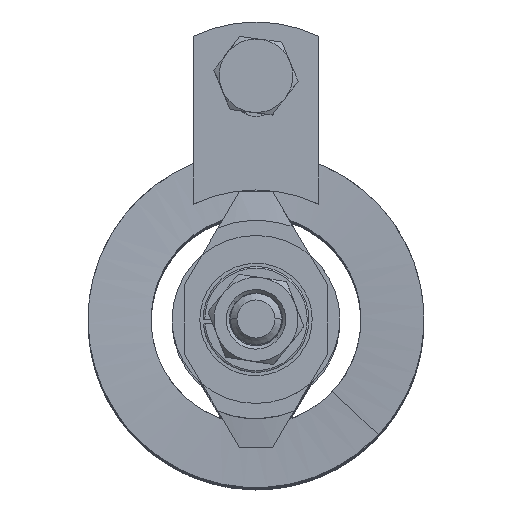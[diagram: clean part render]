
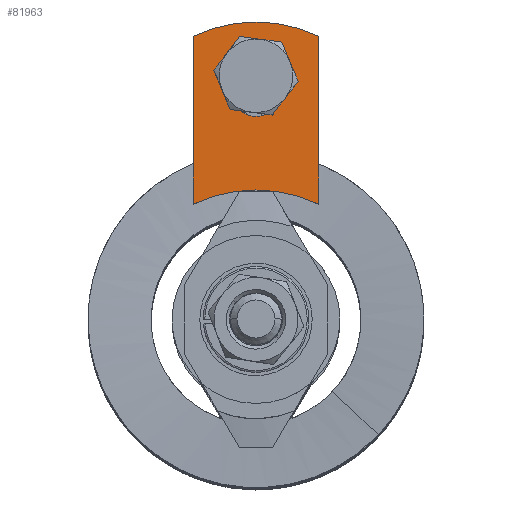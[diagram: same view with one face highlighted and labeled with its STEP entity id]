
A CAD part, top view. The second image highlights one B-rep face of the part: STEP entity #81963.
In plain terms, the highlighted planar face has unit normal (0, 0, 1).
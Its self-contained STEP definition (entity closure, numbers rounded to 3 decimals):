
#3057 = FACE_BOUND ( 'NONE', #114098, .T. ) ;
#3061 = FACE_OUTER_BOUND ( 'NONE', #5842, .T. ) ;
#5842 = EDGE_LOOP ( 'NONE', ( #39906, #39901, #39898, #39895, #39892, #39889 ) ) ;
#33125 = CARTESIAN_POINT ( 'NONE',  ( 8.136, 3.373, 0. ) ) ;
#33455 = CARTESIAN_POINT ( 'NONE',  ( 10.914, -3.373, 0. ) ) ;
#33978 = CARTESIAN_POINT ( 'NONE',  ( 10.914, 3.373, 0. ) ) ;
#39438 = VERTEX_POINT ( 'NONE', #33455 ) ;
#39889 = ORIENTED_EDGE ( 'NONE', *, *, #101750, .T. ) ;
#39892 = ORIENTED_EDGE ( 'NONE', *, *, #101670, .T. ) ;
#39895 = ORIENTED_EDGE ( 'NONE', *, *, #101749, .T. ) ;
#39898 = ORIENTED_EDGE ( 'NONE', *, *, #101748, .T. ) ;
#39901 = ORIENTED_EDGE ( 'NONE', *, *, #101662, .T. ) ;
#39906 = ORIENTED_EDGE ( 'NONE', *, *, #101747, .T. ) ;
#39909 = ORIENTED_EDGE ( 'NONE', *, *, #101746, .T. ) ;
#39912 = ORIENTED_EDGE ( 'NONE', *, *, #101745, .T. ) ;
#39915 = ORIENTED_EDGE ( 'NONE', *, *, #101744, .T. ) ;
#39918 = ORIENTED_EDGE ( 'NONE', *, *, #101666, .T. ) ;
#39921 = ORIENTED_EDGE ( 'NONE', *, *, #101743, .T. ) ;
#43383 = VERTEX_POINT ( 'NONE', #33125 ) ;
#43532 = VERTEX_POINT ( 'NONE', #33978 ) ;
#72497 = VERTEX_POINT ( 'NONE', #92924 ) ;
#72561 = VERTEX_POINT ( 'NONE', #93057 ) ;
#72661 = VERTEX_POINT ( 'NONE', #93203 ) ;
#72677 = VERTEX_POINT ( 'NONE', #92852 ) ;
#81963 = ADVANCED_FACE ( 'NONE', ( #3057, #3061 ), #92443, .T. ) ;
#89864 = CARTESIAN_POINT ( 'NONE',  ( -28.575, 0., 0. ) ) ;
#89865 = DIRECTION ( 'NONE',  ( 0., 0., -1. ) ) ;
#89867 = DIRECTION ( 'NONE',  ( 1., 0., 0. ) ) ;
#89883 = CARTESIAN_POINT ( 'NONE',  ( 10.914, 0., 0. ) ) ;
#89885 = DIRECTION ( 'NONE',  ( 0., 0., -1. ) ) ;
#89887 = DIRECTION ( 'NONE',  ( 1., 0., 0. ) ) ;
#89904 = CARTESIAN_POINT ( 'NONE',  ( -3.175, 0., 0. ) ) ;
#89906 = DIRECTION ( 'NONE',  ( 0., 0., 1. ) ) ;
#89908 = DIRECTION ( 'NONE',  ( 1., 0., 0. ) ) ;
#90375 = DIRECTION ( 'NONE',  ( 1., 0., 0. ) ) ;
#90380 = DIRECTION ( 'NONE',  ( -1., 0., 0. ) ) ;
#90381 = CARTESIAN_POINT ( 'NONE',  ( 0., -3.373, 0. ) ) ;
#90382 = CARTESIAN_POINT ( 'NONE',  ( 0., 3.373, 0. ) ) ;
#90386 = CARTESIAN_POINT ( 'NONE',  ( 19.05, 9.525, 0. ) ) ;
#90387 = DIRECTION ( 'NONE',  ( -1., 0., 0. ) ) ;
#90388 = CARTESIAN_POINT ( 'NONE',  ( 10.914, 0., 0. ) ) ;
#90389 = DIRECTION ( 'NONE',  ( 0., 0., -1. ) ) ;
#90390 = DIRECTION ( 'NONE',  ( 1., 0., 0. ) ) ;
#90391 = CARTESIAN_POINT ( 'NONE',  ( 19.05, -9.525, 0. ) ) ;
#90392 = DIRECTION ( 'NONE',  ( 1., 0., 0. ) ) ;
#90393 = CARTESIAN_POINT ( 'NONE',  ( 8.136, 0., 0. ) ) ;
#90394 = DIRECTION ( 'NONE',  ( 0., 0., -1. ) ) ;
#90395 = DIRECTION ( 'NONE',  ( 1., 0., 0. ) ) ;
#90398 = CARTESIAN_POINT ( 'NONE',  ( -28.575, 0., 0. ) ) ;
#90399 = DIRECTION ( 'NONE',  ( 0., 0., -1. ) ) ;
#90400 = DIRECTION ( 'NONE',  ( 1., 0., 0. ) ) ;
#90401 = CARTESIAN_POINT ( 'NONE',  ( -3.175, 0., 0. ) ) ;
#90402 = DIRECTION ( 'NONE',  ( 0., 0., 1. ) ) ;
#90403 = DIRECTION ( 'NONE',  ( 1., 0., 0. ) ) ;
#92413 = DIRECTION ( 'NONE',  ( 1., 0., 0. ) ) ;
#92415 = DIRECTION ( 'NONE',  ( 0., 0., 1. ) ) ;
#92443 = PLANE ( 'NONE',  #121334 ) ;
#92446 = CARTESIAN_POINT ( 'NONE',  ( 0., 0., 0. ) ) ;
#92852 = CARTESIAN_POINT ( 'NONE',  ( 16.905, -9.525, 0. ) ) ;
#92924 = CARTESIAN_POINT ( 'NONE',  ( 19.05, 0., 0. ) ) ;
#93057 = CARTESIAN_POINT ( 'NONE',  ( 16.905, 9.525, 0. ) ) ;
#93203 = CARTESIAN_POINT ( 'NONE',  ( -6.35, 0., 0. ) ) ;
#94915 = AXIS2_PLACEMENT_3D ( 'NONE', #90398, #90399, #90400 ) ;
#101662 = EDGE_CURVE ( 'NONE', #119680, #72661, #127033, .T. ) ;
#101666 = EDGE_CURVE ( 'NONE', #43532, #119826, #127038, .T. ) ;
#101670 = EDGE_CURVE ( 'NONE', #72677, #72497, #127044, .T. ) ;
#101743 = EDGE_CURVE ( 'NONE', #43383, #43532, #127098, .T. ) ;
#101744 = EDGE_CURVE ( 'NONE', #119826, #39438, #127102, .T. ) ;
#101745 = EDGE_CURVE ( 'NONE', #39438, #119780, #127104, .T. ) ;
#101746 = EDGE_CURVE ( 'NONE', #119780, #43383, #127105, .T. ) ;
#101747 = EDGE_CURVE ( 'NONE', #72561, #119680, #127107, .T. ) ;
#101748 = EDGE_CURVE ( 'NONE', #72661, #119626, #127108, .T. ) ;
#101749 = EDGE_CURVE ( 'NONE', #119626, #72677, #127110, .T. ) ;
#101750 = EDGE_CURVE ( 'NONE', #72497, #72561, #127111, .T. ) ;
#105472 = CARTESIAN_POINT ( 'NONE',  ( -8.495, -9.525, 0. ) ) ;
#105503 = CARTESIAN_POINT ( 'NONE',  ( -8.495, 9.525, 0. ) ) ;
#105550 = CARTESIAN_POINT ( 'NONE',  ( 8.136, -3.373, 0. ) ) ;
#105571 = CARTESIAN_POINT ( 'NONE',  ( 14.287, 0., 0. ) ) ;
#114098 = EDGE_LOOP ( 'NONE', ( #39921, #39918, #39915, #39912, #39909 ) ) ;
#115609 = AXIS2_PLACEMENT_3D ( 'NONE', #89864, #89865, #89867 ) ;
#115614 = AXIS2_PLACEMENT_3D ( 'NONE', #89883, #89885, #89887 ) ;
#115618 = AXIS2_PLACEMENT_3D ( 'NONE', #89904, #89906, #89908 ) ;
#115649 = AXIS2_PLACEMENT_3D ( 'NONE', #90388, #90389, #90390 ) ;
#115651 = AXIS2_PLACEMENT_3D ( 'NONE', #90393, #90394, #90395 ) ;
#119626 = VERTEX_POINT ( 'NONE', #105472 ) ;
#119680 = VERTEX_POINT ( 'NONE', #105503 ) ;
#119780 = VERTEX_POINT ( 'NONE', #105550 ) ;
#119826 = VERTEX_POINT ( 'NONE', #105571 ) ;
#121334 = AXIS2_PLACEMENT_3D ( 'NONE', #92446, #92415, #92413 ) ;
#125130 = AXIS2_PLACEMENT_3D ( 'NONE', #90401, #90402, #90403 ) ;
#127033 = CIRCLE ( 'NONE', #115609, 22.225 ) ;
#127038 = CIRCLE ( 'NONE', #115614, 3.373 ) ;
#127044 = CIRCLE ( 'NONE', #115618, 22.225 ) ;
#127098 = LINE ( 'NONE', #90382, #127103 ) ;
#127102 = CIRCLE ( 'NONE', #115649, 3.373 ) ;
#127103 = VECTOR ( 'NONE', #90375, 1000. ) ;
#127104 = LINE ( 'NONE', #90381, #127106 ) ;
#127105 = CIRCLE ( 'NONE', #115651, 3.373 ) ;
#127106 = VECTOR ( 'NONE', #90380, 1000. ) ;
#127107 = LINE ( 'NONE', #90386, #127109 ) ;
#127108 = CIRCLE ( 'NONE', #94915, 22.225 ) ;
#127109 = VECTOR ( 'NONE', #90387, 1000. ) ;
#127110 = LINE ( 'NONE', #90391, #127112 ) ;
#127111 = CIRCLE ( 'NONE', #125130, 22.225 ) ;
#127112 = VECTOR ( 'NONE', #90392, 1000. ) ;
